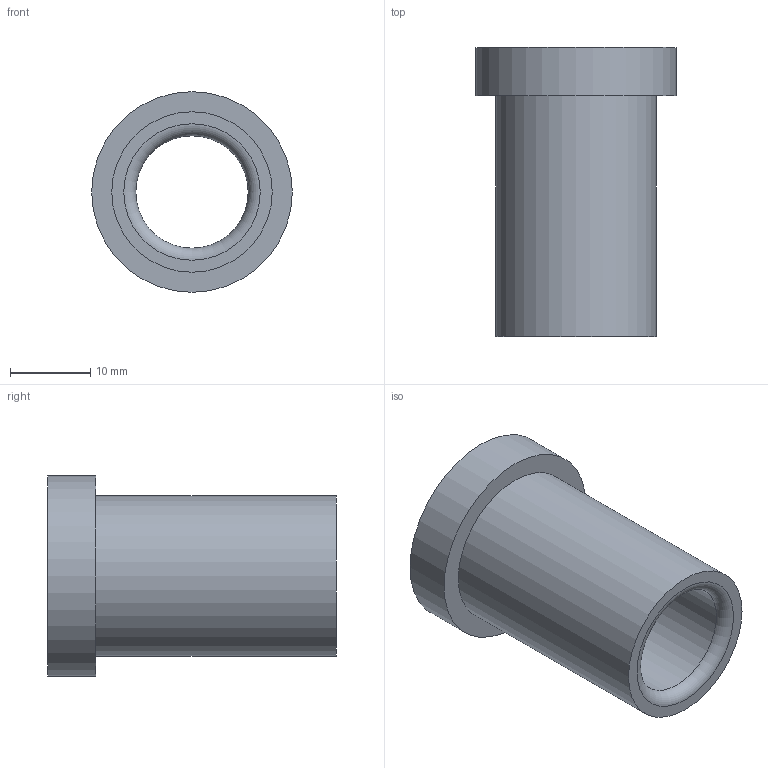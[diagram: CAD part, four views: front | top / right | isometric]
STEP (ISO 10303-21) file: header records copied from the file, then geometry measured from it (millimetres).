
FILE_DESCRIPTION(/* description */ ('STEP AP214'),/* implementation_level */ '2;1');
FILE_NAME(/* name */ '03_12_17906',/* time_stamp */ '2023-06-15T11:35:24+02:00',/* author */ ('License CC BY-ND 4.0'),/* organization */ ('CADENAS'),/* preprocessor_version */ 'ST-DEVELOPER v19.3',/* originating_system */ 'PARTsolutions',/* authorisation */ ' ');
FILE_SCHEMA (('AUTOMOTIVE_DESIGN {1 0 10303 214 3 1 1}'));
Length unit declared in the file: millimetre
Products named in the file (1): VA_Bushing_17906
Bounding box: 25 x 36 x 25 mm (x, y, z)
Volume: 6685.8 mm3; surface area: 4571.2 mm2
Topology: 1 solids, 1 shells, 10 faces, 16 edges, 10 vertices
Faces by surface type: cylinder 4, plane 4, torus 2
Full cylindrical faces by diameter (mm): 14 x1, 14.6 x1, 20 x1, 25 x1
Entity records: 302 total; most frequent: DIRECTION 42, CARTESIAN_POINT 31, AXIS2_PLACEMENT_3D 21, ORIENTED_EDGE 20, EDGE_LOOP 20, FACE_BOUND 20, EDGE_CURVE 10, VERTEX_POINT 10
